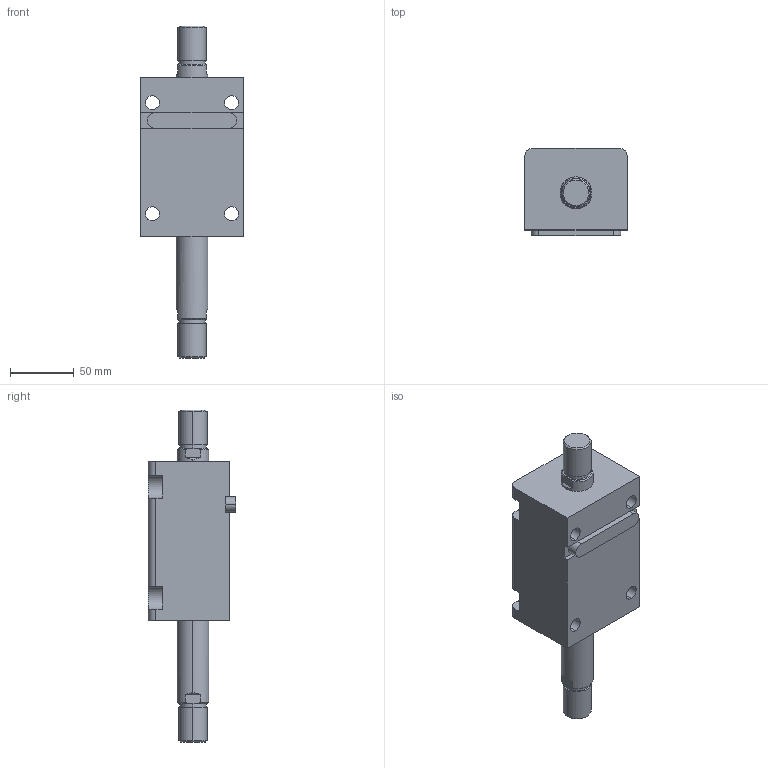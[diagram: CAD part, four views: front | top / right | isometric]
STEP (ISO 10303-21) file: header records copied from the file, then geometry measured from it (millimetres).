
FILE_DESCRIPTION (( 'STEP AP203' ), '1' );
FILE_NAME ('HTB-LW40-55W.STEP', '2019-10-09T07:56:44', ( '微软用户' ), ( '微软中国' ), 'SwSTEP 2.0', 'SolidWorks 2012', '' );
FILE_SCHEMA (( 'CONFIG_CONTROL_DESIGN' ));
Length unit declared in the file: millimetre
Products named in the file (4): HTB-LW40-55W; HTB-LA40-瑩; HTB-LW40-55W活塞杆; HTB-LW40-55掛极
Assembly tree (3 placements, depth 2):
  HTB-LW40-55W
    HTB-LW40-55掛极
    HTB-LW40-55W活塞杆
    HTB-LA40-瑩
Bounding box: 80 x 68.5 x 260 mm (x, y, z)
Volume: 623364.1 mm3; surface area: 94358.1 mm2
Topology: 3 solids, 3 shells, 113 faces, 273 edges, 178 vertices
Faces by surface type: plane 48, cylinder 45, cone 12, torus 8
Entity records: 3779 total; most frequent: CARTESIAN_POINT 622, DIRECTION 617, ORIENTED_EDGE 546, EDGE_CURVE 273, AXIS2_PLACEMENT_3D 241, VERTEX_POINT 178, EDGE_LOOP 135, VECTOR 135
